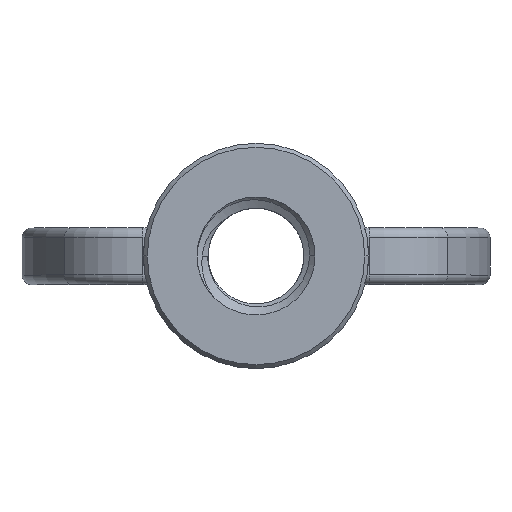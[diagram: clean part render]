
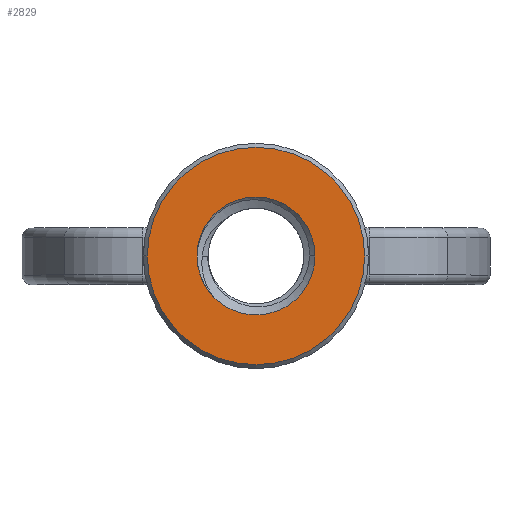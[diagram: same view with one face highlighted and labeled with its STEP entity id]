
A CAD part, top view. The second image highlights one B-rep face of the part: STEP entity #2829.
In plain terms, the highlighted planar face has unit normal (0, 0, 1).
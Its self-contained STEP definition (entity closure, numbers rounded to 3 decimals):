
#101 = EDGE_CURVE ( 'NONE', #2185, #3229, #2549, .T. ) ;
#138 = AXIS2_PLACEMENT_3D ( 'NONE', #2285, #949, #964 ) ;
#144 = PLANE ( 'NONE',  #2353 ) ;
#186 = CARTESIAN_POINT ( 'NONE',  ( -4.281, -4.204, 0. ) ) ;
#233 = CARTESIAN_POINT ( 'NONE',  ( 0., 0., 0. ) ) ;
#338 = CARTESIAN_POINT ( 'NONE',  ( 11.055, 0., 0. ) ) ;
#415 = DIRECTION ( 'NONE',  ( 1., 0., 0. ) ) ;
#450 = ORIENTED_EDGE ( 'NONE', *, *, #2553, .F. ) ;
#468 = CARTESIAN_POINT ( 'NONE',  ( 6., 0., 0. ) ) ;
#503 = DIRECTION ( 'NONE',  ( 1., 0., 0. ) ) ;
#554 = FACE_OUTER_BOUND ( 'NONE', #1809, .T. ) ;
#610 = EDGE_LOOP ( 'NONE', ( #625, #1841, #450 ) ) ;
#625 = ORIENTED_EDGE ( 'NONE', *, *, #1420, .F. ) ;
#689 = CARTESIAN_POINT ( 'NONE',  ( -6., 0., 0. ) ) ;
#949 = DIRECTION ( 'NONE',  ( 0., 0., 1. ) ) ;
#964 = DIRECTION ( 'NONE',  ( 1., 0., 0. ) ) ;
#980 = EDGE_CURVE ( 'NONE', #1406, #1489, #3080, .T. ) ;
#1022 = CARTESIAN_POINT ( 'NONE',  ( 0., 0., 0. ) ) ;
#1078 = CIRCLE ( 'NONE', #1446, 11.055 ) ;
#1092 = CIRCLE ( 'NONE', #2151, 6. ) ;
#1261 = CARTESIAN_POINT ( 'NONE',  ( -11.055, 0., 0. ) ) ;
#1292 = DIRECTION ( 'NONE',  ( 1., 0., 0. ) ) ;
#1405 = AXIS2_PLACEMENT_3D ( 'NONE', #233, #2010, #503 ) ;
#1406 = VERTEX_POINT ( 'NONE', #689 ) ;
#1409 = DIRECTION ( 'NONE',  ( 0., 0., 1. ) ) ;
#1420 = EDGE_CURVE ( 'NONE', #1489, #2725, #3243, .T. ) ;
#1446 = AXIS2_PLACEMENT_3D ( 'NONE', #2892, #1409, #3146 ) ;
#1469 = CARTESIAN_POINT ( 'NONE',  ( 0., 0., 0. ) ) ;
#1489 = VERTEX_POINT ( 'NONE', #186 ) ;
#1715 = DIRECTION ( 'NONE',  ( 1., 0., 0. ) ) ;
#1783 = ORIENTED_EDGE ( 'NONE', *, *, #101, .T. ) ;
#1809 = EDGE_LOOP ( 'NONE', ( #1856, #1783 ) ) ;
#1828 = FACE_BOUND ( 'NONE', #610, .T. ) ;
#1841 = ORIENTED_EDGE ( 'NONE', *, *, #980, .F. ) ;
#1856 = ORIENTED_EDGE ( 'NONE', *, *, #3008, .T. ) ;
#2010 = DIRECTION ( 'NONE',  ( 0., 0., 1. ) ) ;
#2151 = AXIS2_PLACEMENT_3D ( 'NONE', #1022, #2792, #1292 ) ;
#2185 = VERTEX_POINT ( 'NONE', #338 ) ;
#2285 = CARTESIAN_POINT ( 'NONE',  ( 0., 0., 0. ) ) ;
#2353 = AXIS2_PLACEMENT_3D ( 'NONE', #3181, #2671, #415 ) ;
#2549 = CIRCLE ( 'NONE', #1405, 11.055 ) ;
#2553 = EDGE_CURVE ( 'NONE', #2725, #1406, #1092, .T. ) ;
#2671 = DIRECTION ( 'NONE',  ( 0., 0., 1. ) ) ;
#2725 = VERTEX_POINT ( 'NONE', #468 ) ;
#2792 = DIRECTION ( 'NONE',  ( 0., 0., 1. ) ) ;
#2829 = ADVANCED_FACE ( 'NONE', ( #554, #1828 ), #144, .T. ) ;
#2892 = CARTESIAN_POINT ( 'NONE',  ( 0., 0., 0. ) ) ;
#3008 = EDGE_CURVE ( 'NONE', #3229, #2185, #1078, .T. ) ;
#3027 = AXIS2_PLACEMENT_3D ( 'NONE', #1469, #3216, #1715 ) ;
#3080 = CIRCLE ( 'NONE', #138, 6. ) ;
#3146 = DIRECTION ( 'NONE',  ( 1., 0., 0. ) ) ;
#3181 = CARTESIAN_POINT ( 'NONE',  ( 0., 0., 0. ) ) ;
#3216 = DIRECTION ( 'NONE',  ( 0., 0., 1. ) ) ;
#3229 = VERTEX_POINT ( 'NONE', #1261 ) ;
#3243 = CIRCLE ( 'NONE', #3027, 6. ) ;
